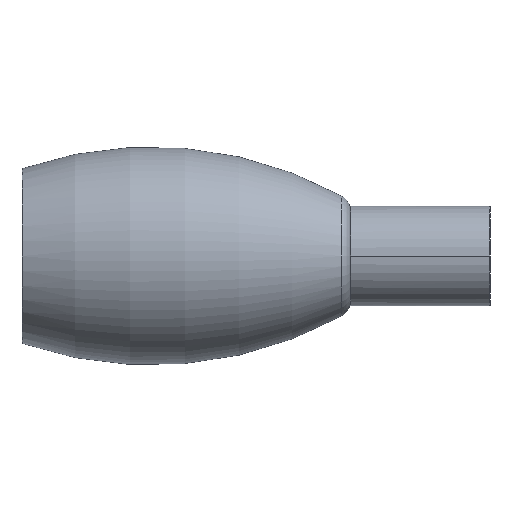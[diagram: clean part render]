
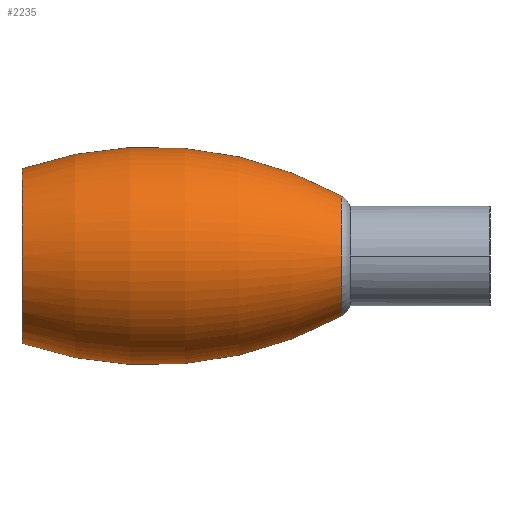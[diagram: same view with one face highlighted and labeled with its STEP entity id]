
A CAD part, left-side view. The second image highlights one B-rep face of the part: STEP entity #2235.
In plain terms, the highlighted toroidal (fillet/blend) face has major radius 343.829 mm and minor radius 475 mm.
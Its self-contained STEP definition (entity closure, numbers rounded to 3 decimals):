
#133 = ORIENTED_EDGE ( 'NONE', *, *, #1396, .T. ) ;
#134 = CARTESIAN_POINT ( 'NONE',  ( 0., 407.906, -343.829 ) ) ;
#144 = TOROIDAL_SURFACE ( 'NONE', #434, -343.829, 475. ) ;
#187 = ORIENTED_EDGE ( 'NONE', *, *, #797, .T. ) ;
#208 = DIRECTION ( 'NONE',  ( 0., 1., 0. ) ) ;
#223 = FACE_OUTER_BOUND ( 'NONE', #2306, .T. ) ;
#307 = DIRECTION ( 'NONE',  ( 1., 0., 0. ) ) ;
#377 = CIRCLE ( 'NONE', #1161, 475. ) ;
#434 = AXIS2_PLACEMENT_3D ( 'NONE', #3029, #208, #2556 ) ;
#538 = DIRECTION ( 'NONE',  ( 0., 1., 0. ) ) ;
#797 = EDGE_CURVE ( 'NONE', #2233, #1974, #867, .T. ) ;
#857 = AXIS2_PLACEMENT_3D ( 'NONE', #1423, #538, #1188 ) ;
#867 = CIRCLE ( 'NONE', #857, 72.009 ) ;
#881 = DIRECTION ( 'NONE',  ( -1., 0., 0. ) ) ;
#1112 = AXIS2_PLACEMENT_3D ( 'NONE', #1787, #2770, #2950 ) ;
#1161 = AXIS2_PLACEMENT_3D ( 'NONE', #1442, #307, #1690 ) ;
#1188 = DIRECTION ( 'NONE',  ( 0., 0., -1. ) ) ;
#1292 = CARTESIAN_POINT ( 'NONE',  ( 0., 563., -105.137 ) ) ;
#1396 = EDGE_CURVE ( 'NONE', #1755, #2054, #2755, .T. ) ;
#1423 = CARTESIAN_POINT ( 'NONE',  ( 0., 178.334, 0. ) ) ;
#1442 = CARTESIAN_POINT ( 'NONE',  ( 0., 407.906, 343.829 ) ) ;
#1592 = CARTESIAN_POINT ( 'NONE',  ( 0., 178.334, -72.009 ) ) ;
#1643 = EDGE_CURVE ( 'NONE', #2233, #2054, #377, .T. ) ;
#1690 = DIRECTION ( 'NONE',  ( 0., 1., 0. ) ) ;
#1714 = CARTESIAN_POINT ( 'NONE',  ( 0., 178.334, 72.009 ) ) ;
#1752 = ORIENTED_EDGE ( 'NONE', *, *, #1643, .F. ) ;
#1755 = VERTEX_POINT ( 'NONE', #2529 ) ;
#1787 = CARTESIAN_POINT ( 'NONE',  ( 0., 563., 0. ) ) ;
#1974 = VERTEX_POINT ( 'NONE', #1714 ) ;
#2054 = VERTEX_POINT ( 'NONE', #1292 ) ;
#2233 = VERTEX_POINT ( 'NONE', #1592 ) ;
#2235 = ADVANCED_FACE ( 'NONE', ( #223 ), #144, .T. ) ;
#2306 = EDGE_LOOP ( 'NONE', ( #187, #2611, #133, #1752 ) ) ;
#2529 = CARTESIAN_POINT ( 'NONE',  ( 0., 563., 105.137 ) ) ;
#2555 = CIRCLE ( 'NONE', #3046, 475. ) ;
#2556 = DIRECTION ( 'NONE',  ( 0., 0., -1. ) ) ;
#2611 = ORIENTED_EDGE ( 'NONE', *, *, #2666, .T. ) ;
#2666 = EDGE_CURVE ( 'NONE', #1974, #1755, #2555, .T. ) ;
#2755 = CIRCLE ( 'NONE', #1112, 105.137 ) ;
#2765 = DIRECTION ( 'NONE',  ( 0., -1., 0. ) ) ;
#2770 = DIRECTION ( 'NONE',  ( 0., -1., 0. ) ) ;
#2950 = DIRECTION ( 'NONE',  ( 0., 0., -1. ) ) ;
#3029 = CARTESIAN_POINT ( 'NONE',  ( 0., 407.906, 0. ) ) ;
#3046 = AXIS2_PLACEMENT_3D ( 'NONE', #134, #881, #2765 ) ;
